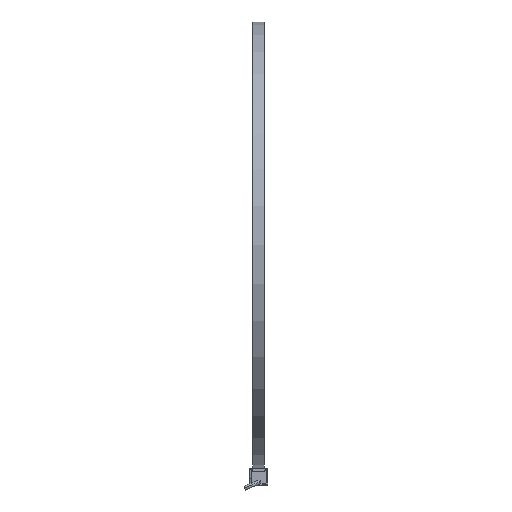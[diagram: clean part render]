
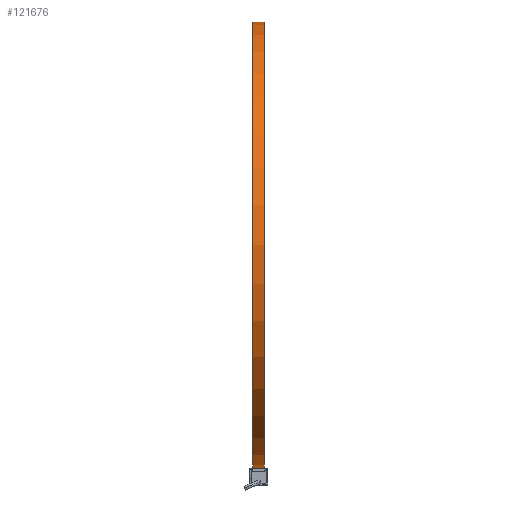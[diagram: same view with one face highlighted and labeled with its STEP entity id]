
A CAD part, left-side view. The second image highlights one B-rep face of the part: STEP entity #121676.
In plain terms, the highlighted cylindrical face has radius 239.09 mm (diameter 478.18 mm), a partial arc.
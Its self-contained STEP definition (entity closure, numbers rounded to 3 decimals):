
#1876 = CYLINDRICAL_SURFACE ( 'NONE', #55291, 239.09 ) ;
#6921 = VERTEX_POINT ( 'NONE', #118365 ) ;
#9960 = ORIENTED_EDGE ( 'NONE', *, *, #22348, .F. ) ;
#10122 = CARTESIAN_POINT ( 'NONE',  ( 0., 12., -239.09 ) ) ;
#14256 = VERTEX_POINT ( 'NONE', #112263 ) ;
#16983 = CARTESIAN_POINT ( 'NONE',  ( 0., 0., 239.09 ) ) ;
#22348 = EDGE_CURVE ( 'NONE', #14256, #113574, #48971, .T. ) ;
#24408 = FACE_OUTER_BOUND ( 'NONE', #114764, .T. ) ;
#27222 = DIRECTION ( 'NONE',  ( 0., -1., 0. ) ) ;
#27249 = EDGE_CURVE ( 'NONE', #113574, #6921, #50194, .T. ) ;
#34345 = VERTEX_POINT ( 'NONE', #10122 ) ;
#39051 = CARTESIAN_POINT ( 'NONE',  ( 0., 0., -239.09 ) ) ;
#48971 = LINE ( 'NONE', #16983, #71124 ) ;
#50194 = CIRCLE ( 'NONE', #100131, 239.09 ) ;
#55291 = AXIS2_PLACEMENT_3D ( 'NONE', #75395, #76073, #117005 ) ;
#59389 = DIRECTION ( 'NONE',  ( 0., 0., -1. ) ) ;
#60738 = DIRECTION ( 'NONE',  ( 0., -1., 0. ) ) ;
#61876 = DIRECTION ( 'NONE',  ( 0., 0., -1. ) ) ;
#71124 = VECTOR ( 'NONE', #27222, 1000. ) ;
#71928 = VECTOR ( 'NONE', #90791, 1000. ) ;
#74568 = ORIENTED_EDGE ( 'NONE', *, *, #111619, .T. ) ;
#75395 = CARTESIAN_POINT ( 'NONE',  ( 0., 0., 0. ) ) ;
#76073 = DIRECTION ( 'NONE',  ( 0., -1., 0. ) ) ;
#76637 = ORIENTED_EDGE ( 'NONE', *, *, #27249, .F. ) ;
#83608 = CARTESIAN_POINT ( 'NONE',  ( 0., 0., 0. ) ) ;
#90791 = DIRECTION ( 'NONE',  ( 0., -1., 0. ) ) ;
#92500 = CIRCLE ( 'NONE', #127298, 239.09 ) ;
#93666 = ORIENTED_EDGE ( 'NONE', *, *, #107015, .T. ) ;
#100131 = AXIS2_PLACEMENT_3D ( 'NONE', #83608, #132741, #61876 ) ;
#101961 = CARTESIAN_POINT ( 'NONE',  ( 0., 0., 239.09 ) ) ;
#107015 = EDGE_CURVE ( 'NONE', #34345, #6921, #132999, .T. ) ;
#111619 = EDGE_CURVE ( 'NONE', #14256, #34345, #92500, .T. ) ;
#112263 = CARTESIAN_POINT ( 'NONE',  ( 0., 12., 239.09 ) ) ;
#113574 = VERTEX_POINT ( 'NONE', #101961 ) ;
#114764 = EDGE_LOOP ( 'NONE', ( #9960, #74568, #93666, #76637 ) ) ;
#117005 = DIRECTION ( 'NONE',  ( 0., 0., -1. ) ) ;
#118365 = CARTESIAN_POINT ( 'NONE',  ( 0., 0., -239.09 ) ) ;
#121676 = ADVANCED_FACE ( 'NONE', ( #24408 ), #1876, .T. ) ;
#127298 = AXIS2_PLACEMENT_3D ( 'NONE', #133584, #60738, #59389 ) ;
#132741 = DIRECTION ( 'NONE',  ( 0., -1., 0. ) ) ;
#132999 = LINE ( 'NONE', #39051, #71928 ) ;
#133584 = CARTESIAN_POINT ( 'NONE',  ( 0., 12., 0. ) ) ;
